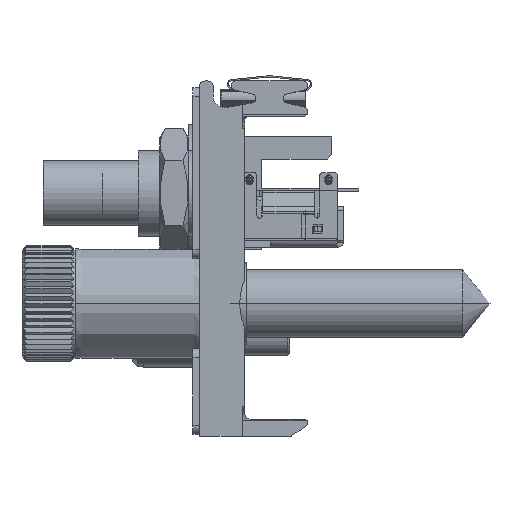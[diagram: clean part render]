
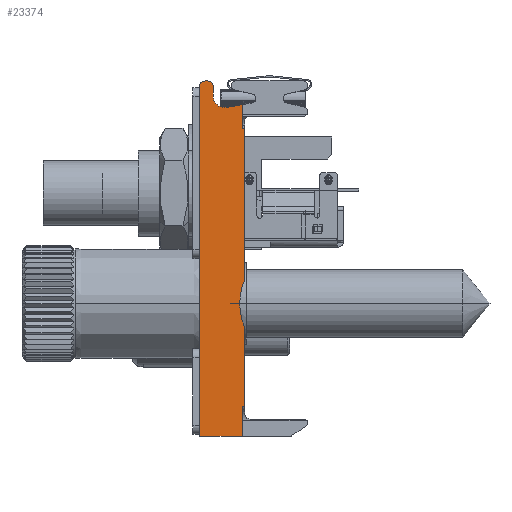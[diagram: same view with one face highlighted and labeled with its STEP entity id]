
A CAD part, front view. The second image highlights one B-rep face of the part: STEP entity #23374.
In plain terms, the highlighted planar face has unit normal (0, -1, 0).
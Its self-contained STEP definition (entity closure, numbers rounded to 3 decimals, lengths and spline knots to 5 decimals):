
#633=DIRECTION('',(0.,0.,1.));
#634=VECTOR('',#633,0.482);
#635=CARTESIAN_POINT('',(-0.20023,-4.502,0.20798));
#636=LINE('',#635,#634);
#673=CARTESIAN_POINT('',(-0.20023,-4.502,0.20798));
#713=DIRECTION('',(0.,0.,1.));
#714=VECTOR('',#713,0.294);
#715=CARTESIAN_POINT('',(-0.20023,-4.502,-0.08602));
#716=LINE('',#715,#714);
#4052=DIRECTION('',(1.,0.,0.));
#4053=VECTOR('',#4052,0.095);
#4054=CARTESIAN_POINT('',(-0.20023,-4.502,-0.08602));
#4055=LINE('',#4054,#4053);
#4254=DIRECTION('',(0.,0.,1.));
#4255=VECTOR('',#4254,0.17544);
#4256=CARTESIAN_POINT('',(-0.10023,-4.502,-0.02052));
#4257=LINE('',#4256,#4255);
#4263=DIRECTION('',(0.,0.,1.));
#4264=VECTOR('',#4263,0.33494);
#4265=CARTESIAN_POINT('',(-0.10023,-4.502,
0.26104));
#4266=LINE('',#4265,#4264);
#4865=CARTESIAN_POINT('',(-0.18823,-4.502,0.68998));
#4866=DIRECTION('',(0.,-1.,0.));
#4867=DIRECTION('',(0.,0.,1.));
#4868=AXIS2_PLACEMENT_3D('',#4865,#4866,#4867);
#4870=CARTESIAN_POINT('',(-0.18223,-4.502,0.68998));
#4871=DIRECTION('',(0.,-1.,0.));
#4872=DIRECTION('',(1.,0.,0.));
#4873=AXIS2_PLACEMENT_3D('',#4870,#4871,#4872);
#4875=DIRECTION('',(0.,0.,-1.));
#4876=VECTOR('',#4875,0.022);
#4877=CARTESIAN_POINT('',(-0.17023,-4.502,0.68998));
#4878=LINE('',#4877,#4876);
#4879=CARTESIAN_POINT('',(-0.14523,-4.502,0.66798));
#4880=DIRECTION('',(0.,-1.,0.));
#4881=DIRECTION('',(-1.,0.,0.));
#4882=AXIS2_PLACEMENT_3D('',#4879,#4880,#4881);
#4884=DIRECTION('',(0.986,0.,0.168));
#4885=VECTOR('',#4884,0.03632);
#4886=CARTESIAN_POINT('',(-0.14103,-4.502,0.64333));
#4887=LINE('',#4886,#4885);
#4888=DIRECTION('',(0.,0.,1.));
#4889=VECTOR('',#4888,0.05345);
#4890=CARTESIAN_POINT('',(-0.10523,-4.502,0.59598));
#4891=LINE('',#4890,#4889);
#4892=DIRECTION('',(-1.,0.,0.));
#4893=VECTOR('',#4892,0.005);
#4894=CARTESIAN_POINT('',(-0.10023,-4.502,0.59598));
#4895=LINE('',#4894,#4893);
#4896=CARTESIAN_POINT('',(-0.10023,-4.502,
0.26104));
#4897=CARTESIAN_POINT('',(-0.10086,-4.502,
0.25943));
#4898=CARTESIAN_POINT('',(-0.10209,-4.502,
0.25623));
#4899=CARTESIAN_POINT('',(-0.10379,-4.502,
0.25139));
#4900=CARTESIAN_POINT('',(-0.10533,-4.502,
0.24653));
#4901=CARTESIAN_POINT('',(-0.10671,-4.502,
0.24167));
#4902=CARTESIAN_POINT('',(-0.10791,-4.502,
0.23681));
#4903=CARTESIAN_POINT('',(-0.10893,-4.502,
0.23195));
#4904=CARTESIAN_POINT('',(-0.10977,-4.502,
0.22711));
#4905=CARTESIAN_POINT('',(-0.11043,-4.502,
0.22228));
#4906=CARTESIAN_POINT('',(-0.11089,-4.502,
0.21748));
#4907=CARTESIAN_POINT('',(-0.11117,-4.502,
0.21271));
#4908=CARTESIAN_POINT('',(-0.11123,-4.502,0.20956));
#4909=CARTESIAN_POINT('',(-0.11123,-4.502,0.20799));
#4911=CARTESIAN_POINT('',(-0.11123,-4.502,0.20799));
#4912=CARTESIAN_POINT('',(-0.11123,-4.502,0.20642));
#4913=CARTESIAN_POINT('',(-0.11117,-4.502,
0.20326));
#4914=CARTESIAN_POINT('',(-0.11089,-4.502,
0.19847));
#4915=CARTESIAN_POINT('',(-0.11042,-4.502,
0.19365));
#4916=CARTESIAN_POINT('',(-0.10977,-4.502,
0.18881));
#4917=CARTESIAN_POINT('',(-0.10892,-4.502,
0.18395));
#4918=CARTESIAN_POINT('',(-0.1079,-4.502,
0.17908));
#4919=CARTESIAN_POINT('',(-0.10669,-4.502,
0.17422));
#4920=CARTESIAN_POINT('',(-0.10531,-4.502,
0.16936));
#4921=CARTESIAN_POINT('',(-0.10377,-4.502,
0.16452));
#4922=CARTESIAN_POINT('',(-0.10208,-4.502,
0.1597));
#4923=CARTESIAN_POINT('',(-0.10086,-4.502,
0.15651));
#4924=CARTESIAN_POINT('',(-0.10023,-4.502,
0.15492));
#4926=DIRECTION('',(-1.,0.,0.));
#4927=VECTOR('',#4926,0.005);
#4928=CARTESIAN_POINT('',(-0.10023,-4.502,-0.02052));
#4929=LINE('',#4928,#4927);
#4930=DIRECTION('',(0.,0.,1.));
#4931=VECTOR('',#4930,0.0655);
#4932=CARTESIAN_POINT('',(-0.10523,-4.502,-0.08602));
#4933=LINE('',#4932,#4931);
#4938=DIRECTION('',(-1.,0.,0.));
#4939=VECTOR('',#4938,0.006);
#4940=CARTESIAN_POINT('',(-0.18223,-4.502,0.70198));
#4941=LINE('',#4940,#4939);
#15318=CARTESIAN_POINT('',(-0.20023,-4.502,-0.08602));
#15320=VERTEX_POINT('',#15318);
#15332=CARTESIAN_POINT('',(-0.20023,-4.502,0.68998));
#15334=VERTEX_POINT('',#15332);
#15345=CARTESIAN_POINT('',(-0.17023,-4.502,0.68998));
#15346=CARTESIAN_POINT('',(-0.18223,-4.502,0.70198));
#15347=VERTEX_POINT('',#15345);
#15348=VERTEX_POINT('',#15346);
#15349=CARTESIAN_POINT('',(-0.17023,-4.502,0.66798));
#15350=VERTEX_POINT('',#15349);
#15351=CARTESIAN_POINT('',(-0.14103,-4.502,0.64333));
#15352=VERTEX_POINT('',#15351);
#15353=CARTESIAN_POINT('',(-0.18823,-4.502,0.70198));
#15354=VERTEX_POINT('',#15353);
#15415=CARTESIAN_POINT('',(-0.10023,-4.502,-0.02052));
#15416=VERTEX_POINT('',#15415);
#15417=CARTESIAN_POINT('',(-0.10523,-4.502,-0.08602));
#15419=VERTEX_POINT('',#15417);
#15423=CARTESIAN_POINT('',(-0.10523,-4.502,-0.02052));
#15424=VERTEX_POINT('',#15423);
#15425=CARTESIAN_POINT('',(-0.10523,-4.502,0.59598));
#15426=CARTESIAN_POINT('',(-0.10523,-4.502,0.64943));
#15427=VERTEX_POINT('',#15425);
#15428=VERTEX_POINT('',#15426);
#15429=CARTESIAN_POINT('',(-0.10023,-4.502,0.59598));
#15430=VERTEX_POINT('',#15429);
#15475=VERTEX_POINT('',#4911);
#15476=VERTEX_POINT('',#4924);
#15481=VERTEX_POINT('',#4896);
#15798=VERTEX_POINT('',#673);
#23339=CARTESIAN_POINT('',(-0.10023,-4.502,-0.08602));
#23340=DIRECTION('',(0.,-1.,0.));
#23341=DIRECTION('',(0.,0.,1.));
#23342=AXIS2_PLACEMENT_3D('',#23339,#23340,#23341);
#23343=PLANE('',#23342);
#23344=ORIENTED_EDGE('',*,*,#18986,.T.);
#23345=ORIENTED_EDGE('',*,*,#18980,.T.);
#23347=ORIENTED_EDGE('',*,*,#23346,.F.);
#23349=ORIENTED_EDGE('',*,*,#23348,.F.);
#23351=ORIENTED_EDGE('',*,*,#23350,.F.);
#23353=ORIENTED_EDGE('',*,*,#23352,.T.);
#23355=ORIENTED_EDGE('',*,*,#23354,.T.);
#23357=ORIENTED_EDGE('',*,*,#23356,.T.);
#23359=ORIENTED_EDGE('',*,*,#23358,.F.);
#23360=ORIENTED_EDGE('',*,*,#23332,.F.);
#23361=ORIENTED_EDGE('',*,*,#22477,.F.);
#23363=ORIENTED_EDGE('',*,*,#23362,.T.);
#23365=ORIENTED_EDGE('',*,*,#23364,.T.);
#23366=ORIENTED_EDGE('',*,*,#22471,.F.);
#23368=ORIENTED_EDGE('',*,*,#23367,.T.);
#23370=ORIENTED_EDGE('',*,*,#23369,.F.);
#23371=ORIENTED_EDGE('',*,*,#22323,.F.);
#23372=EDGE_LOOP('',(#23344,#23345,#23347,#23349,#23351,#23353,#23355,#23357,
#23359,#23360,#23361,#23363,#23365,#23366,#23368,#23370,#23371));
#23373=FACE_OUTER_BOUND('',#23372,.F.);
#23374=ADVANCED_FACE('',(#23373),#23343,.T.);
#4869=CIRCLE('',#4868,0.012);
#4874=CIRCLE('',#4873,0.012);
#4883=CIRCLE('',#4882,0.025);
#4910=B_SPLINE_CURVE_WITH_KNOTS('',3,(#4896,#4897,#4898,#4899,#4900,#4901,#4902,
#4903,#4904,#4905,#4906,#4907,#4908,#4909),.UNSPECIFIED.,.F.,.F.,(4,1,1,1,1,1,1,
1,1,1,1,4),(0.,0.09091,0.18182,0.27273,
0.36364,0.45455,0.54545,0.63636,
0.72727,0.81818,0.90909,1.),.UNSPECIFIED.);
#4925=B_SPLINE_CURVE_WITH_KNOTS('',3,(#4911,#4912,#4913,#4914,#4915,#4916,#4917,
#4918,#4919,#4920,#4921,#4922,#4923,#4924),.UNSPECIFIED.,.F.,.F.,(4,1,1,1,1,1,1,
1,1,1,1,4),(0.,0.09091,0.18182,0.27273,
0.36364,0.45455,0.54545,0.63636,
0.72727,0.81818,0.90909,1.),.UNSPECIFIED.);
#18980=EDGE_CURVE('',#15798,#15334,#636,.T.);
#18986=EDGE_CURVE('',#15320,#15798,#716,.T.);
#22323=EDGE_CURVE('',#15320,#15419,#4055,.T.);
#22471=EDGE_CURVE('',#15416,#15476,#4257,.T.);
#22477=EDGE_CURVE('',#15481,#15430,#4266,.T.);
#23332=EDGE_CURVE('',#15430,#15427,#4895,.T.);
#23346=EDGE_CURVE('',#15354,#15334,#4869,.T.);
#23348=EDGE_CURVE('',#15348,#15354,#4941,.T.);
#23350=EDGE_CURVE('',#15347,#15348,#4874,.T.);
#23352=EDGE_CURVE('',#15347,#15350,#4878,.T.);
#23354=EDGE_CURVE('',#15350,#15352,#4883,.T.);
#23356=EDGE_CURVE('',#15352,#15428,#4887,.T.);
#23358=EDGE_CURVE('',#15427,#15428,#4891,.T.);
#23362=EDGE_CURVE('',#15481,#15475,#4910,.T.);
#23364=EDGE_CURVE('',#15475,#15476,#4925,.T.);
#23367=EDGE_CURVE('',#15416,#15424,#4929,.T.);
#23369=EDGE_CURVE('',#15419,#15424,#4933,.T.);
